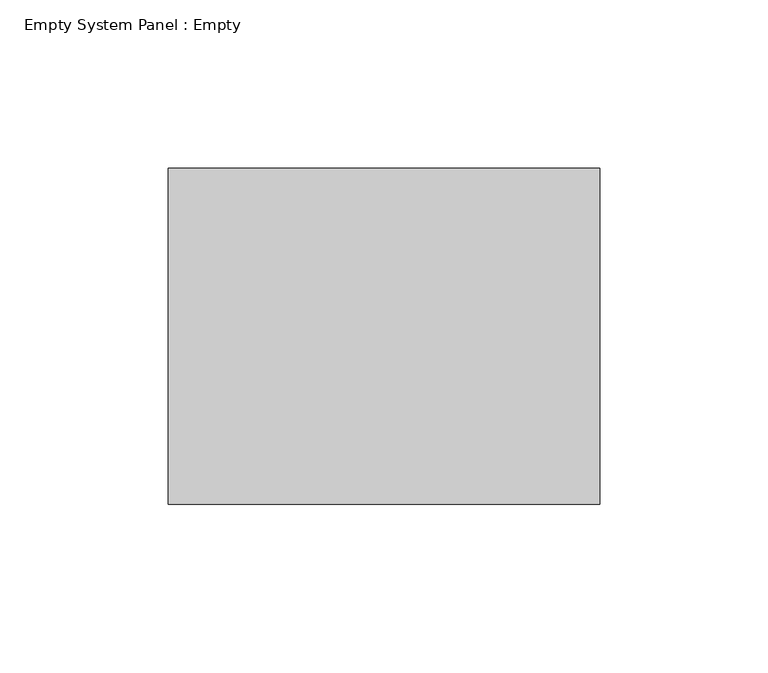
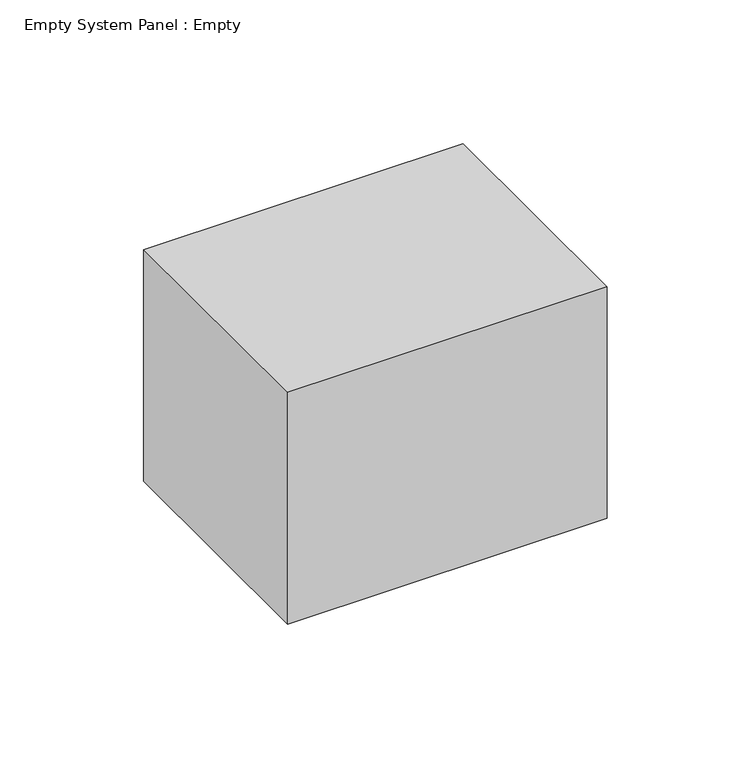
"""IFC4 building model written with IfcOpenShell, lengths in millimetres: plate geometry, Empty System Panel : Empty."""

import ifcopenshell
import ifcopenshell.guid

model = None  # the IFC model being written
_history = None  # IfcOwnerHistory: only IFC2X3 demands one
_inside = {}  # id of a spatial element -> (the spatial element, [elements in it])
_under = {}  # id of a project, library or spatial element -> (it, [spatial elements below it])
_declared = {}  # id of a project -> (the project, [libraries it declares])
_typed = {}  # id of a type object -> (the type object, [elements of that type])
_made_of = {}  # id of a material, layer set ... -> (it, [elements and type objects made of it])


def new_model(schema):
    """Start an empty IFC model of exactly this schema.

    Asked for "IFC4X3", IfcOpenShell would pick the latest addendum, in which some entities
    have other attributes; the version numbers below select the first issue.
    IFC2X3 requires an IfcOwnerHistory on every rooted entity: one is made here for all.
    """
    global model, _history
    if schema == "IFC4X3":
        model = ifcopenshell.file(schema_version=(4, 3, 0, 0))
    else:
        model = ifcopenshell.file(schema=schema)
    _inside.clear()
    _under.clear()
    _declared.clear()
    _typed.clear()
    _made_of.clear()
    _history = None
    if model.schema == "IFC2X3":
        org = make("IfcOrganization", Name="unknown")
        user = make(
            "IfcPersonAndOrganization",
            ThePerson=make("IfcPerson", FamilyName="unknown"),
            TheOrganization=org,
        )
        app = make(
            "IfcApplication",
            ApplicationDeveloper=org,
            Version="unknown",
            ApplicationFullName="unknown",
            ApplicationIdentifier="unknown",
        )
        _history = make(
            "IfcOwnerHistory",
            OwningUser=user,
            OwningApplication=app,
            ChangeAction="ADDED",
            CreationDate=0,
        )
    return model


def make(cls, **values):
    """One entity of the class cls with the attributes given. An attribute that is None is left unset."""
    return model.create_entity(
        cls, **{name: value for name, value in values.items() if value is not None}
    )


def rooted(cls, **values):
    """An entity with a GlobalId (a new one), such as an element, a storey or a relation."""
    return make(cls, GlobalId=ifcopenshell.guid.new(), OwnerHistory=_history, **values)


def si_unit(unit_type, name, prefix=None):
    """IfcSIUnit, for example si_unit("LENGTHUNIT", "METRE", prefix="MILLI")."""
    return make("IfcSIUnit", UnitType=unit_type, Prefix=prefix, Name=name)


def assignment(units):
    """IfcUnitAssignment: the units of a project."""
    return None if units is None else make("IfcUnitAssignment", Units=units)


def point(xyz):
    """IfcCartesianPoint."""
    return None if xyz is None else make("IfcCartesianPoint", Coordinates=xyz)


def direction(xyz):
    """IfcDirection."""
    return None if xyz is None else make("IfcDirection", DirectionRatios=xyz)


def frame(location, z_axis=None, x_axis=None):
    """IfcAxis2Placement3D, a coordinate frame: its origin and axes. An axis left out is left unset."""
    return make(
        "IfcAxis2Placement3D",
        Location=point(location),
        Axis=direction(z_axis),
        RefDirection=direction(x_axis),
    )


def origin():
    """The frame at (0, 0, 0) with its axes left unset."""
    return frame((0.0, 0.0, 0.0))


def origin_with_axes():
    """The frame at (0, 0, 0) with the z axis (0, 0, 1) and the x axis (1, 0, 0) written out."""
    return frame((0.0, 0.0, 0.0), z_axis=(0.0, 0.0, 1.0), x_axis=(1.0, 0.0, 0.0))


def place(relative_to, where):
    """IfcLocalPlacement: puts the frame where relative to a parent placement (None: the world)."""
    return make(
        "IfcLocalPlacement", PlacementRelTo=relative_to, RelativePlacement=where
    )


def context(
    kind, dimensions, precision=None, world=None, true_north=None, identifier=None
):
    """IfcGeometricRepresentationContext, for example the 3D "Model" context."""
    return make(
        "IfcGeometricRepresentationContext",
        ContextIdentifier=identifier,
        ContextType=kind,
        CoordinateSpaceDimension=dimensions,
        Precision=precision,
        WorldCoordinateSystem=world,
        TrueNorth=true_north,
    )


def project(units=None, contexts=None):
    """IfcProject with its units and contexts."""
    return rooted(
        "IfcProject",
        Name="project",
        RepresentationContexts=contexts,
        UnitsInContext=assignment(units),
    )


def spatial(cls, under=None, at=None, **own):
    """A site, building, storey or space (cls), placed at a placement, below another one or the project."""
    s = rooted(cls, ObjectPlacement=at, **own)
    if under is not None:
        _under.setdefault(under.id(), (under, []))[1].append(s)
    return s


def polyline(points):
    """IfcPolyline through the points."""
    return make("IfcPolyline", Points=[point(p) for p in points])


def outline(outer, holes=None, kind="AREA"):
    """IfcArbitraryClosedProfileDef: a profile drawn as a closed curve; with holes, ...WithVoids."""
    if holes is None:
        return make("IfcArbitraryClosedProfileDef", ProfileType=kind, OuterCurve=outer)
    return make(
        "IfcArbitraryProfileDefWithVoids",
        ProfileType=kind,
        OuterCurve=outer,
        InnerCurves=holes,
    )


def extrude(swept, where, along, depth):
    """IfcExtrudedAreaSolid: the profile swept, set in the frame where, extruded along a direction by depth."""
    return make(
        "IfcExtrudedAreaSolid",
        SweptArea=swept,
        Position=where,
        ExtrudedDirection=direction(along),
        Depth=depth,
    )


def shape(context_of_items, identifier, shape_type, items):
    """IfcShapeRepresentation: the items that make up one representation, for example the "Body"."""
    return make(
        "IfcShapeRepresentation",
        ContextOfItems=context_of_items,
        RepresentationIdentifier=identifier,
        RepresentationType=shape_type,
        Items=items,
    )


def source(mapping_origin, context_of_items, identifier, shape_type, items):
    """IfcRepresentationMap: a shape defined once, which mapped items show again and again."""
    return make(
        "IfcRepresentationMap",
        MappingOrigin=mapping_origin,
        MappedRepresentation=shape(context_of_items, identifier, shape_type, items),
    )


def transform(
    local_origin,
    x_axis=None,
    y_axis=None,
    z_axis=None,
    scale=None,
    scale2=None,
    scale3=None,
    uniform=True,
):
    """IfcCartesianTransformationOperator3D, or its non-uniform kind. x_axis, y_axis, z_axis: its Axis1, 2, 3."""
    if uniform:
        return make(
            "IfcCartesianTransformationOperator3D",
            Axis1=direction(x_axis),
            Axis2=direction(y_axis),
            LocalOrigin=point(local_origin),
            Scale=scale,
            Axis3=direction(z_axis),
        )
    return make(
        "IfcCartesianTransformationOperator3DnonUniform",
        Axis1=direction(x_axis),
        Axis2=direction(y_axis),
        LocalOrigin=point(local_origin),
        Scale=scale,
        Axis3=direction(z_axis),
        Scale2=scale2,
        Scale3=scale3,
    )


def mapped(mapping_source, mapping_target):
    """IfcMappedItem: shows the shape of a source again, moved by a transform."""
    return make(
        "IfcMappedItem", MappingSource=mapping_source, MappingTarget=mapping_target
    )


def made_of(thing, what):
    """Note that an element or type object is made of a material, layer set ...; save() writes the relation."""
    if what is not None:
        _made_of.setdefault(what.id(), (what, []))[1].append(thing)
    return thing


def element(
    cls,
    number,
    at=None,
    inside=None,
    cuts=None,
    type_object=None,
    material=None,
    context=None,
    identifier="Body",
    shape_type=None,
    held_by="IfcProductDefinitionShape",
    body=None,
    shapes=None,
    **own,
):
    """One element of the class cls, such as IfcWall. Its Tag is "e" and its number.

    at: its placement. inside: the storey or other place that contains it. cuts: it is an
    opening in that element (IfcRelVoidsElement). A single representation is given by context,
    identifier, shape_type and body (its items); several are given by shapes. held_by: the class
    of the entity that holds the representations. save() writes the other relations.
    """
    e = rooted(cls, Tag="e%d" % number, ObjectPlacement=at, **own)
    if body is not None:
        shapes = [shape(context, identifier, shape_type, body)]
    if shapes is not None:
        e.Representation = make(held_by, Representations=shapes)
    if inside is not None:
        _inside.setdefault(inside.id(), (inside, []))[1].append(e)
    if cuts is not None:
        rooted(
            "IfcRelVoidsElement", RelatingBuildingElement=cuts, RelatedOpeningElement=e
        )
    if type_object is not None:
        _typed.setdefault(type_object.id(), (type_object, []))[1].append(e)
    return made_of(e, material)


def aggregate(whole, parts):
    """IfcRelAggregates: a whole, such as a stair, and the parts it consists of."""
    return rooted("IfcRelAggregates", RelatingObject=whole, RelatedObjects=parts)


def save(model, path):
    """Write the relations noted so far, then the file.

    IfcRelAggregates (storeys below a building ...), IfcRelContainedInSpatialStructure (elements
    in a storey), IfcRelDefinesByType, IfcRelAssociatesMaterial and IfcRelDeclares: one each for
    every whole, place, type object, material and project.
    """
    for whole, parts in _under.values():
        aggregate(whole, parts)
    for where, things in _inside.values():
        rooted(
            "IfcRelContainedInSpatialStructure",
            RelatedElements=things,
            RelatingStructure=where,
        )
    for kind, things in _typed.values():
        rooted("IfcRelDefinesByType", RelatedObjects=things, RelatingType=kind)
    for what, things in _made_of.values():
        rooted("IfcRelAssociatesMaterial", RelatedObjects=things, RelatingMaterial=what)
    for by, libraries in _declared.values():
        rooted("IfcRelDeclares", RelatingContext=by, RelatedDefinitions=libraries)
    model.write(path)


def empty_system_panel_empty_6db68ad0(model_context):
    return source(origin(), model_context, "Body", "SweptSolid", [
        extrude(outline(polyline([(64.1878051, 50.0), (-64.1878051, 50.0), (-64.1878051, 150.0), (64.1878051, 150.0), (64.1878051, 50.0)])), origin_with_axes(), (0.0, 0.0, 1.0), 98.37561),
    ])


if __name__ == "__main__":
    model = new_model("IFC4")
    model_context = context("Model", 3, world=origin())
    ifc_project = project(units=[si_unit("LENGTHUNIT", "METRE", prefix="MILLI")], contexts=[model_context])
    site = spatial("IfcSite", under=ifc_project)
    building = spatial("IfcBuilding", under=site)
    placement = place(None, origin())
    empty_system_panel_empty_shape = empty_system_panel_empty_6db68ad0(model_context)
    element("IfcPlate", 1, ObjectType="Empty System Panel : Empty", at=placement, inside=building, context=model_context, shape_type="MappedRepresentation", body=[
        mapped(empty_system_panel_empty_shape, transform((0.0, 0.0, 0.0), x_axis=(1.0, 0.0, 0.0), y_axis=(0.0, 1.0, 0.0), z_axis=(0.0, 0.0, 1.0))),
    ])
    save(model, "model.ifc")
